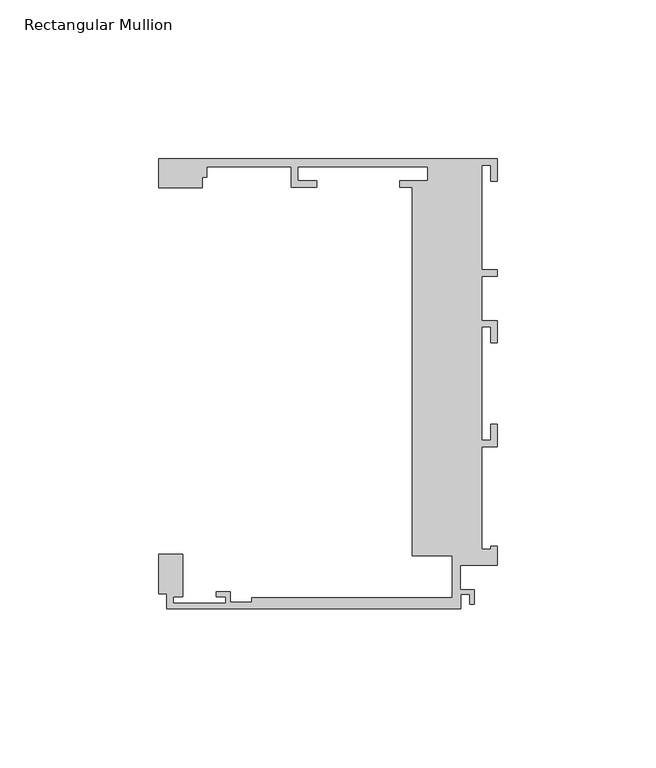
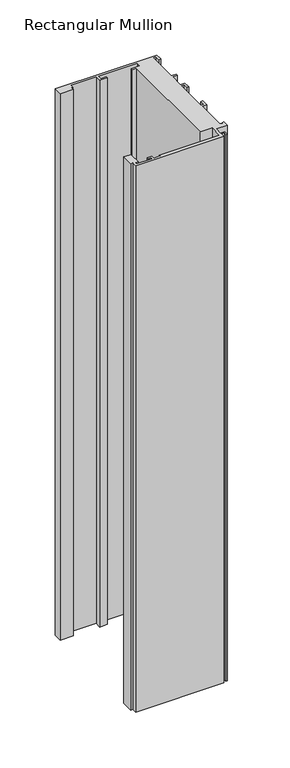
"""IFC4 building model written with IfcOpenShell, lengths in millimetres: member geometry, Rectangular Mullion : Danpal_K12_End-Mullion_B2."""

from ifc_helpers import new_model, si_unit, frame, origin, place, context, project, spatial, polyline, outline, extrude, source, transform, mapped, element, save


def rectangular_mullion_8cb09d31(model_context):
    return source(origin(), model_context, "Body", "SweptSolid", [
        extrude(outline(polyline([(-26.6209612, 1.9446289), (-26.6209612, 117.8676658), (-30.6, 117.8676658), (-30.6, 119.8676658), (-21.835, 119.8676658), (-21.835, 124.2676658), (-62.7350275, 124.2676658), (-62.7350275, 119.8676658), (-56.7350275, 119.8676658), (-56.7350275, 117.8676658), (-64.7350275, 117.8676658), (-64.7350275, 124.2676658), (-91.2900275, 124.2676658), (-91.2900275, 121.0676175), (-92.8228167, 121.0676175), (-92.8228167, 117.6986749), (-106.4117426, 117.6986749), (-106.4117426, 126.7676657), (0.0, 126.7676657), (0.0, 119.7676657), (-2.0, 119.7676657), (-2.0, 124.7676657), (-4.8, 124.7676657), (-4.8, 91.8676485), (0.0, 91.8676485), (0.0, 89.8676485), (-4.8, 89.8676485), (-4.8, 75.867683), (0.0, 75.867683), (0.0, 68.8676657), (-2.0, 68.8676657), (-2.0, 73.8676657), (-4.8, 73.8676657), (-4.8, 38.2443486), (-2.0, 38.2443486), (-2.0, 43.2443486), (0.0, 43.2443486), (0.0, 36.2443486), (-4.8, 36.2443486), (-4.8, 3.9448486), (-2.0, 3.9448486), (-2.0, 4.9448486), (0.0, 4.9448486), (0.0, -1.0551514), (-11.6055875, -1.0551514), (-11.6055875, -8.8006425), (-7.1518595, -8.8006425), (-7.1518595, -13.3051514), (-8.6518595, -13.3051514), (-8.6518595, -10.3006425), (-11.4019537, -10.3006425), (-11.4019537, -14.8051514), (-103.8999976, -14.8051514), (-103.8999976, -10.065304), (-106.4117426, -10.065304), (-106.4117426, 2.316674), (-98.8999976, 2.316674), (-98.8999976, -11.0051513), (-101.8999976, -11.0051513), (-101.8999976, -13.0051512), (-85.3999976, -13.0051512), (-85.3999976, -11.0051513), (-88.3999976, -11.0051513), (-88.3999976, -9.5051512), (-83.8999976, -9.5051512), (-83.8999976, -12.8051513), (-77.1531178, -12.8051513), (-77.1531178, -11.3051512), (-14.1055875, -11.3051512), (-14.1055875, 1.9446289), (-26.6209612, 1.9446289)])), frame((0.0, 0.0, -605.0), z_axis=(0.0, 0.0, 1.0), x_axis=(1.0, 0.0, 0.0)), (0.0, 0.0, 1.0), 605.0),
    ])


if __name__ == "__main__":
    model = new_model("IFC4")
    model_context = context("Model", 3, world=origin())
    ifc_project = project(units=[si_unit("LENGTHUNIT", "METRE", prefix="MILLI")], contexts=[model_context])
    site = spatial("IfcSite", under=ifc_project)
    building = spatial("IfcBuilding", under=site)
    placement = place(None, origin())
    rectangular_mullion_shape = rectangular_mullion_8cb09d31(model_context)
    element("IfcMember", 1, ObjectType="Rectangular Mullion : Danpal_K12_End-Mullion_B2", at=placement, inside=building, context=model_context, shape_type="MappedRepresentation", body=[
        mapped(rectangular_mullion_shape, transform((0.0, 0.0, 0.0), x_axis=(1.0, 0.0, 0.0), y_axis=(0.0, 1.0, 0.0), z_axis=(0.0, 0.0, 1.0))),
    ])
    save(model, "model.ifc")
